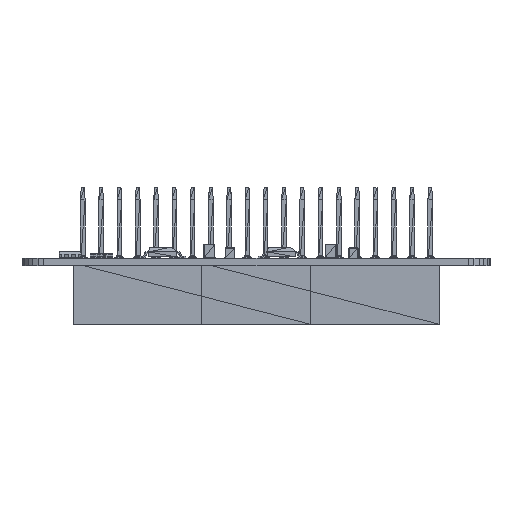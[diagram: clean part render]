
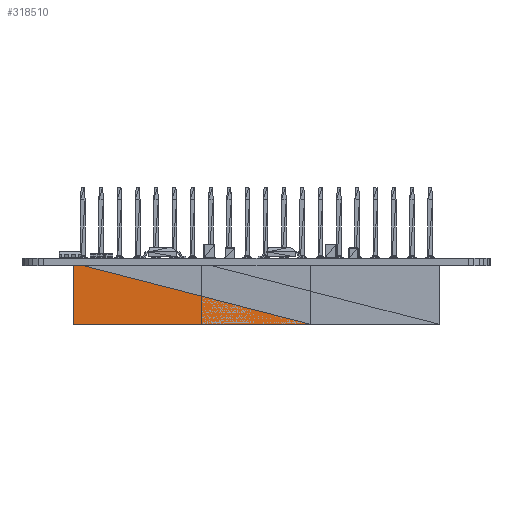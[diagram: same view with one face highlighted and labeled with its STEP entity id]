
A CAD part, front view. The second image highlights one B-rep face of the part: STEP entity #318510.
In plain terms, the highlighted planar face has unit normal (0, -1, 0) as drawn and (0, 0, -1) by its records, which use the part's own axes.
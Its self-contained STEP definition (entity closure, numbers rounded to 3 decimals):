
#25681=FACE_OUTER_BOUND('',#52343,.T.);
#52343=EDGE_LOOP('',(#260571,#260572,#260573));
#90530=LINE('',#515805,#130032);
#90539=LINE('',#515822,#130041);
#90540=LINE('',#515824,#130042);
#130032=VECTOR('',#432396,1.);
#130041=VECTOR('',#432413,1.);
#130042=VECTOR('',#432416,1.);
#146692=VERTEX_POINT('',#515798);
#146694=VERTEX_POINT('',#515804);
#146698=VERTEX_POINT('',#515820);
#184266=EDGE_CURVE('',#146692,#146694,#90530,.T.);
#184275=EDGE_CURVE('',#146698,#146692,#90539,.T.);
#184276=EDGE_CURVE('',#146694,#146698,#90540,.T.);
#260571=ORIENTED_EDGE('',*,*,#184266,.F.);
#260572=ORIENTED_EDGE('',*,*,#184275,.F.);
#260573=ORIENTED_EDGE('',*,*,#184276,.F.);
#292126=PLANE('',#345670);
#318510=ADVANCED_FACE('',(#25681),#292126,.F.);
#345670=AXIS2_PLACEMENT_3D('',#515823,#432414,#432415);
#432396=DIRECTION('',(0.968,0.249,0.));
#432413=DIRECTION('',(0.,-1.,0.));
#432414=DIRECTION('center_axis',(0.,0.,1.));
#432415=DIRECTION('ref_axis',(0.,1.,0.));
#432416=DIRECTION('',(-1.,0.,0.));
#515798=CARTESIAN_POINT('',(-34.335,10.648,-1.253));
#515804=CARTESIAN_POINT('',(-1.315,19.148,-1.253));
#515805=CARTESIAN_POINT('',(-34.335,10.648,-1.253));
#515820=CARTESIAN_POINT('',(-34.335,19.148,-1.253));
#515822=CARTESIAN_POINT('',(-34.335,19.148,-1.253));
#515823=CARTESIAN_POINT('Origin',(-1.315,19.148,-1.253));
#515824=CARTESIAN_POINT('',(-1.315,19.148,-1.253));
